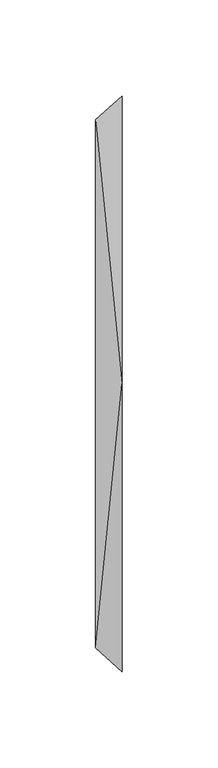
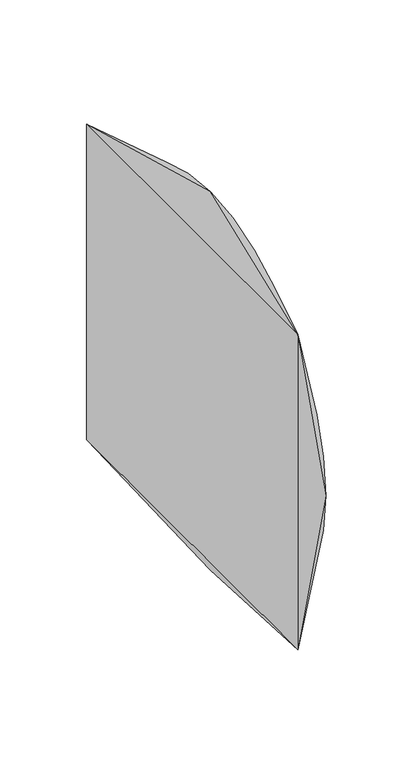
"""IFC4 building model written with IfcOpenShell, lengths in millimetres: duct fitting geometry, magicirc_multi_shape_trans_001 : magicirc_multi_shape_trans_001."""

from ifc_helpers import new_model, si_unit, frame, origin, place, context, project, spatial, circle_curve, source, transform, mapped, element, save
from ifc_brep_helpers import plane_surface, spline_surface, advanced_brep


def duct_fitting_12c1f083(model_context):
    return source(origin(), model_context, "Body", "AdvancedBrep", [
        advanced_brep(
        [(0.0, -137.5, -125.0), (0.0, -137.5, 125.0), (0.0, 137.5, 125.0), (0.0, 137.5, -125.0), (13.6413563, -150.0, 0.0), (13.6413563, 0.0, -150.0), (13.6413563, 150.0, 0.0), (13.6413563, 0.0, 150.0)],
        [
            (0, 1),
            (1, 2),
            (2, 3),
            (3, 0),
            (4, 5, circle_curve(frame((13.6413563, 0.0, 0.0), z_axis=(1.0, 0.0, 0.0), x_axis=(0.0, -1.0, 0.0)), 150.0)),
            (5, 6, circle_curve(frame((13.6413563, 0.0, 0.0), z_axis=(1.0, 0.0, 0.0), x_axis=(0.0, -1.0, 0.0)), 150.0)),
            (6, 7, circle_curve(frame((13.6413563, 0.0, 0.0), z_axis=(1.0, 0.0, 0.0), x_axis=(0.0, -1.0, 0.0)), 150.0)),
            (7, 4, circle_curve(frame((13.6413563, 0.0, 0.0), z_axis=(1.0, 0.0, 0.0), x_axis=(0.0, -1.0, 0.0)), 150.0)),
            (0, 4),
            (4, 1),
            (7, 1),
            (7, 2),
            (6, 2),
            (6, 3),
            (5, 3),
            (5, 0),
        ],
        [
            plane_surface(frame((0.0, 0.0, 0.0), z_axis=(-1.0, 0.0, 0.0), x_axis=(0.0, 1.0, 0.0))),
            plane_surface(frame((13.6413563, 0.0, 0.0), z_axis=(1.0, 0.0, 0.0), x_axis=(0.0, 1.0, 0.0))),
            plane_surface(frame((13.6413563, -150.0, 0.0), z_axis=(-0.6755902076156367, -0.7372773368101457, 0.0), x_axis=(0.0, 0.0, 1.0))),
            spline_surface(2, 1, [[(13.6413563, -150.0, 0.0), (0.0, -137.5, 125.0)], [(13.6413563, -150.0, 150.0), (0.0, -137.5, 125.0)], [(13.6413563, 0.0, 150.0), (0.0, -137.5, 125.0)]], [3, 3], [2, 2], [0.0, 1.0], [0.0, 1.0], weights=[[1.0, 1.0], [0.7071067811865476, 0.7071067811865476], [1.0, 1.0]]),
            plane_surface(frame((13.6413563, 0.0, 150.0), z_axis=(-0.8778218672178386, 0.0, 0.4789872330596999), x_axis=(0.0, 1.0, 0.0))),
            spline_surface(2, 1, [[(13.6413563, 0.0, 150.0), (0.0, 137.5, 125.0)], [(13.6413563, 150.0, 150.0), (0.0, 137.5, 125.0)], [(13.6413563, 150.0, 0.0), (0.0, 137.5, 125.0)]], [3, 3], [2, 2], [0.0, 1.0], [0.0, 1.0], weights=[[1.0, 1.0], [0.7071067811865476, 0.7071067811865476], [1.0, 1.0]]),
            plane_surface(frame((13.6413563, 150.0, 0.0), z_axis=(-0.6755902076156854, 0.7372773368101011, 0.0), x_axis=(0.0, 0.0, -1.0))),
            spline_surface(2, 1, [[(13.6413563, 150.0, 0.0), (0.0, 137.5, -125.0)], [(13.6413563, 150.0, -150.0), (0.0, 137.5, -125.0)], [(13.6413563, 0.0, -150.0), (0.0, 137.5, -125.0)]], [3, 3], [2, 2], [0.0, 1.0], [0.0, 1.0], weights=[[1.0, 1.0], [0.7071067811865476, 0.7071067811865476], [1.0, 1.0]]),
            plane_surface(frame((13.6413563, 0.0, -150.0), z_axis=(-0.8778218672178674, 0.0, -0.4789872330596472), x_axis=(0.0, -1.0, 0.0))),
            spline_surface(2, 1, [[(13.6413563, 0.0, -150.0), (0.0, -137.5, -125.0)], [(13.6413563, -150.0, -150.0), (0.0, -137.5, -125.0)], [(13.6413563, -150.0, 0.0), (0.0, -137.5, -125.0)]], [3, 3], [2, 2], [0.0, 1.0], [0.0, 1.0], weights=[[1.0, 1.0], [0.7071067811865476, 0.7071067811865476], [1.0, 1.0]]),
        ],
        [
            (0, [[1, 2, 3, 4]]),
            (1, [[5, 6, 7, 8]]),
            (2, [[-1, 9, 10]]),
            (3, [[-8, 11, -10]]),
            (4, [[-2, -11, 12]]),
            (5, [[-7, 13, -12]]),
            (6, [[-3, -13, 14]]),
            (7, [[-6, 15, -14]]),
            (8, [[-4, -15, 16]]),
            (9, [[-5, -9, -16]]),
        ],
    ),
        advanced_brep(
        [(0.0, -137.5, -125.0), (0.0, -137.5, 125.0), (0.0, 137.5, 125.0), (0.0, 137.5, -125.0), (13.6413563, -150.0, 0.0), (13.6413563, 0.0, -150.0), (13.6413563, 150.0, 0.0), (13.6413563, 0.0, 150.0)],
        [
            (0, 1),
            (1, 2),
            (2, 3),
            (3, 0),
            (4, 5, circle_curve(frame((13.6413563, 0.0, 0.0), z_axis=(1.0, 0.0, 0.0), x_axis=(0.0, -1.0, 0.0)), 150.0)),
            (5, 6, circle_curve(frame((13.6413563, 0.0, 0.0), z_axis=(1.0, 0.0, 0.0), x_axis=(0.0, -1.0, 0.0)), 150.0)),
            (6, 7, circle_curve(frame((13.6413563, 0.0, 0.0), z_axis=(1.0, 0.0, 0.0), x_axis=(0.0, -1.0, 0.0)), 150.0)),
            (7, 4, circle_curve(frame((13.6413563, 0.0, 0.0), z_axis=(1.0, 0.0, 0.0), x_axis=(0.0, -1.0, 0.0)), 150.0)),
            (0, 4),
            (4, 1),
            (7, 1),
            (7, 2),
            (6, 2),
            (6, 3),
            (5, 3),
            (5, 0),
        ],
        [
            plane_surface(frame((0.0, 0.0, 0.0), z_axis=(-1.0, 0.0, 0.0), x_axis=(0.0, 1.0, 0.0))),
            plane_surface(frame((13.6413563, 0.0, 0.0), z_axis=(1.0, 0.0, 0.0), x_axis=(0.0, 1.0, 0.0))),
            plane_surface(frame((13.6413563, -150.0, 0.0), z_axis=(-0.6755902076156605, -0.7372773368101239, 0.0), x_axis=(0.0, 0.0, 1.0))),
            spline_surface(2, 1, [[(13.6413563, -150.0, 0.0), (0.0, -137.5, 125.0)], [(13.6413563, -150.0, 150.0), (0.0, -137.5, 125.0)], [(13.6413563, 0.0, 150.0), (0.0, -137.5, 125.0)]], [3, 3], [2, 2], [0.0, 1.0], [0.0, 1.0], weights=[[1.0, 1.0], [0.7071067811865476, 0.7071067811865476], [1.0, 1.0]]),
            plane_surface(frame((13.6413563, 0.0, 150.0), z_axis=(-0.8778218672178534, 0.0, 0.47898723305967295), x_axis=(0.0, 1.0, 0.0))),
            spline_surface(2, 1, [[(13.6413563, 0.0, 150.0), (0.0, 137.5, 125.0)], [(13.6413563, 150.0, 150.0), (0.0, 137.5, 125.0)], [(13.6413563, 150.0, 0.0), (0.0, 137.5, 125.0)]], [3, 3], [2, 2], [0.0, 1.0], [0.0, 1.0], weights=[[1.0, 1.0], [0.7071067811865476, 0.7071067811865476], [1.0, 1.0]]),
            plane_surface(frame((13.6413563, 150.0, 0.0), z_axis=(-0.6755902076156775, 0.7372773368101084, 0.0), x_axis=(0.0, 0.0, -1.0))),
            spline_surface(2, 1, [[(13.6413563, 150.0, 0.0), (0.0, 137.5, -125.0)], [(13.6413563, 150.0, -150.0), (0.0, 137.5, -125.0)], [(13.6413563, 0.0, -150.0), (0.0, 137.5, -125.0)]], [3, 3], [2, 2], [0.0, 1.0], [0.0, 1.0], weights=[[1.0, 1.0], [0.7071067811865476, 0.7071067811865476], [1.0, 1.0]]),
            plane_surface(frame((13.6413563, 0.0, -150.0), z_axis=(-0.8778218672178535, 0.0, -0.47898723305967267), x_axis=(0.0, -1.0, 0.0))),
            spline_surface(2, 1, [[(13.6413563, 0.0, -150.0), (0.0, -137.5, -125.0)], [(13.6413563, -150.0, -150.0), (0.0, -137.5, -125.0)], [(13.6413563, -150.0, 0.0), (0.0, -137.5, -125.0)]], [3, 3], [2, 2], [0.0, 1.0], [0.0, 1.0], weights=[[1.0, 1.0], [0.7071067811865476, 0.7071067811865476], [1.0, 1.0]]),
        ],
        [
            (0, [[1, 2, 3, 4]]),
            (1, [[5, 6, 7, 8]]),
            (2, [[-1, 9, 10]]),
            (3, [[-8, 11, -10]]),
            (4, [[-2, -11, 12]]),
            (5, [[-7, 13, -12]]),
            (6, [[-3, -13, 14]]),
            (7, [[-6, 15, -14]]),
            (8, [[-4, -15, 16]]),
            (9, [[-5, -9, -16]]),
        ],
    ),
        advanced_brep(
        [(13.6413563, 0.0, 150.0), (13.6413563, -150.0, 0.0), (13.6413563, 0.0, -150.0), (13.6413563, 150.0, 0.0), (0.0, -137.5, 125.0), (0.0, 137.5, 125.0), (0.0, 137.5, -125.0), (0.0, -137.5, -125.0)],
        [
            (0, 1, circle_curve(frame((13.6413563, 0.0, 0.0), z_axis=(1.0, 0.0, 0.0), x_axis=(0.0, 1.0, 0.0)), 150.0)),
            (1, 2, circle_curve(frame((13.6413563, 0.0, 0.0), z_axis=(1.0, 0.0, 0.0), x_axis=(0.0, 1.0, 0.0)), 150.0)),
            (2, 3, circle_curve(frame((13.6413563, 0.0, 0.0), z_axis=(1.0, 0.0, 0.0), x_axis=(0.0, 1.0, 0.0)), 150.0)),
            (3, 0, circle_curve(frame((13.6413563, 0.0, 0.0), z_axis=(1.0, 0.0, 0.0), x_axis=(0.0, 1.0, 0.0)), 150.0)),
            (4, 5),
            (5, 6),
            (6, 7),
            (7, 4),
            (0, 4),
            (4, 1),
            (7, 1),
            (7, 2),
            (6, 2),
            (6, 3),
            (5, 3),
            (5, 0),
        ],
        [
            plane_surface(frame((13.6413563, 0.0, 0.0), z_axis=(1.0, 0.0, 0.0), x_axis=(0.0, 0.0, -1.0))),
            plane_surface(frame((0.0, 0.0, 0.0), z_axis=(-1.0, 0.0, 0.0), x_axis=(0.0, 0.0, -1.0))),
            spline_surface(2, 1, [[(0.0, -137.5, 125.0), (13.6413563, 0.0, 150.0)], [(0.0, -137.5, 125.0), (13.6413563, -150.0, 150.0)], [(0.0, -137.5, 125.0), (13.6413563, -150.0, 0.0)]], [3, 3], [2, 2], [0.0, 1.0], [0.0, 1.0], weights=[[1.0, 1.0], [0.7071067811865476, 0.7071067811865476], [1.0, 1.0]]),
            plane_surface(frame((0.0, -137.5, 0.0), z_axis=(-0.6755902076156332, -0.7372773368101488, 0.0), x_axis=(0.0, 0.0, -1.0))),
            spline_surface(2, 1, [[(0.0, -137.5, -125.0), (13.6413563, -150.0, 0.0)], [(0.0, -137.5, -125.0), (13.6413563, -150.0, -150.0)], [(0.0, -137.5, -125.0), (13.6413563, 0.0, -150.0)]], [3, 3], [2, 2], [0.0, 1.0], [0.0, 1.0], weights=[[1.0, 1.0], [0.7071067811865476, 0.7071067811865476], [1.0, 1.0]]),
            plane_surface(frame((0.0, 0.0, -125.0), z_axis=(-0.877821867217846, 0.0, -0.47898723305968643), x_axis=(0.0, 1.0, 0.0))),
            spline_surface(2, 1, [[(0.0, 137.5, -125.0), (13.6413563, 0.0, -150.0)], [(0.0, 137.5, -125.0), (13.6413563, 150.0, -150.0)], [(0.0, 137.5, -125.0), (13.6413563, 150.0, 0.0)]], [3, 3], [2, 2], [0.0, 1.0], [0.0, 1.0], weights=[[1.0, 1.0], [0.7071067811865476, 0.7071067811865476], [1.0, 1.0]]),
            plane_surface(frame((0.0, 137.5, 0.0), z_axis=(-0.6755902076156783, 0.7372773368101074, 0.0), x_axis=(0.0, 0.0, 1.0))),
            spline_surface(2, 1, [[(0.0, 137.5, 125.0), (13.6413563, 150.0, 0.0)], [(0.0, 137.5, 125.0), (13.6413563, 150.0, 150.0)], [(0.0, 137.5, 125.0), (13.6413563, 0.0, 150.0)]], [3, 3], [2, 2], [0.0, 1.0], [0.0, 1.0], weights=[[1.0, 1.0], [0.7071067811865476, 0.7071067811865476], [1.0, 1.0]]),
            plane_surface(frame((0.0, 0.0, 125.0), z_axis=(-0.8778218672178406, 0.0, 0.4789872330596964), x_axis=(0.0, -1.0, 0.0))),
        ],
        [
            (0, [[1, 2, 3, 4]]),
            (1, [[5, 6, 7, 8]]),
            (2, [[-1, 9, 10]]),
            (3, [[-8, 11, -10]]),
            (4, [[-2, -11, 12]]),
            (5, [[-7, 13, -12]]),
            (6, [[-3, -13, 14]]),
            (7, [[-6, 15, -14]]),
            (8, [[-4, -15, 16]]),
            (9, [[-5, -9, -16]]),
        ],
    ),
    ])


if __name__ == "__main__":
    model = new_model("IFC4")
    model_context = context("Model", 3, world=origin())
    ifc_project = project(units=[si_unit("LENGTHUNIT", "METRE", prefix="MILLI")], contexts=[model_context])
    site = spatial("IfcSite", under=ifc_project)
    building = spatial("IfcBuilding", under=site)
    placement = place(None, origin())
    duct_fitting_shape = duct_fitting_12c1f083(model_context)
    element("IfcDuctFitting", 1, ObjectType="magicirc_multi_shape_trans_001 : magicirc_multi_shape_trans_001", at=placement, inside=building, context=model_context, shape_type="MappedRepresentation", body=[
        mapped(duct_fitting_shape, transform((0.0, 0.0, 0.0), x_axis=(1.0, 0.0, 0.0), y_axis=(0.0, 1.0, 0.0), z_axis=(0.0, 0.0, 1.0))),
    ])
    save(model, "model.ifc")
